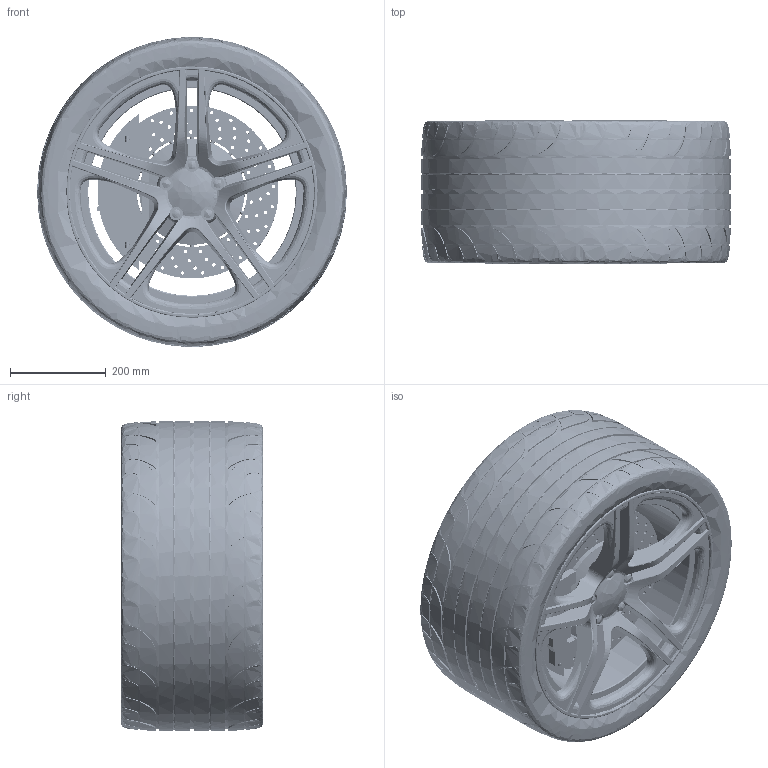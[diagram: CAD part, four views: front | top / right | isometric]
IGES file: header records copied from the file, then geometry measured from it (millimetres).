
Start section:  Autodesk DirectConnect version 9.0.32.0 ---- IGES version 5.3
Global section: file name: C:\Users\Kerry\Documents\Autodesk\Alias\Tutorial_user_data\wire_WORKFLOW4\Wheel_in_Position.igs; native system: Autodesk DirectConnect 9.0.32.0; preprocessor: 9.0.32.0; author: Kerry; organization: Unknown; date: 20131002.125935; units: millimetre
Bounding box: 645.65 x 297.22 x 645.65 mm (x, y, z)
Surface area: 6093979.5 mm2 (no closed solid volume)
Topology: 0 solids, 0 shells, 1554 faces, 49446 edges, 49430 vertices
Faces by surface type: bspline 1554
